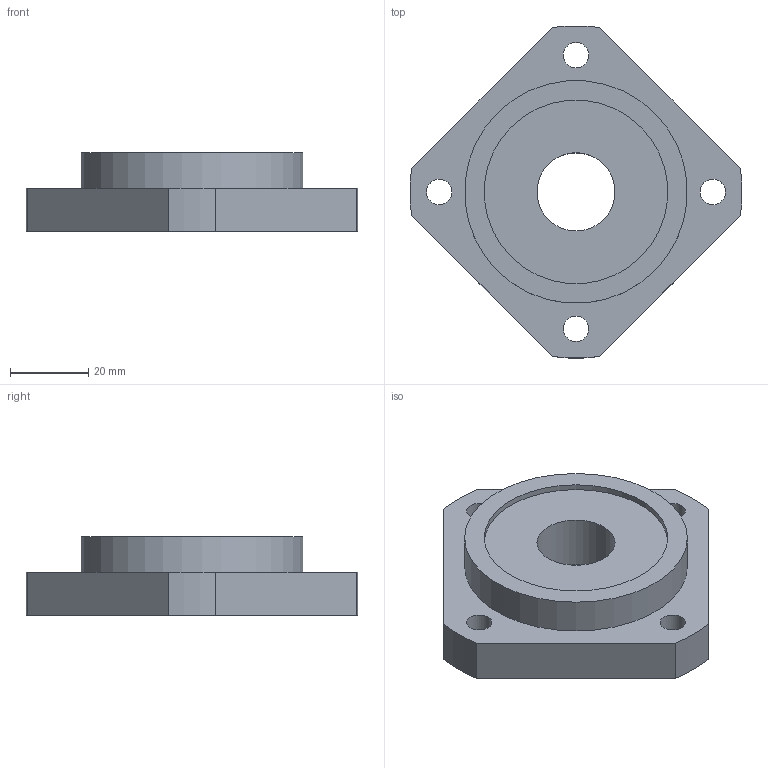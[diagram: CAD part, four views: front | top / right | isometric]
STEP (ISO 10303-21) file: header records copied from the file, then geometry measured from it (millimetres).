
FILE_DESCRIPTION(/* description */ (''),/* implementation_level */ '2;1');
FILE_NAME(/* name */ 'FF20-STP.stp',/* time_stamp */ '2019-11-19T09:18:41+08:00',/* author */ (''),/* organization */ (''),/* preprocessor_version */ 'ST-DEVELOPER v14',/* originating_system */ 'SIEMENS PLM Software NX 8.0',/* authorisation */ '');
FILE_SCHEMA (('AUTOMOTIVE_DESIGN { 1 0 10303 214 3 1 1 1 }'));
Length unit declared in the file: millimetre
Products named in the file (3): 7204; FF20-A; FF20
Assembly tree (2 placements, depth 2):
  FF20
    FF20-A
    7204
Bounding box: 84.9 x 84.9 x 20 mm (x, y, z)
Volume: 54638.7 mm3; surface area: 19616.7 mm2
Topology: 2 solids, 2 shells, 29 faces, 63 edges, 43 vertices
Faces by surface type: cylinder 16, plane 13
Full cylindrical faces by diameter (mm): 6.5 x4, 11 x4, 20 x1, 47 x2, 57 x1
Entity records: 818 total; most frequent: DIRECTION 144, CARTESIAN_POINT 120, ORIENTED_EDGE 96, AXIS2_PLACEMENT_3D 64, EDGE_LOOP 58, FACE_BOUND 50, EDGE_CURVE 48, VERTEX_POINT 40
